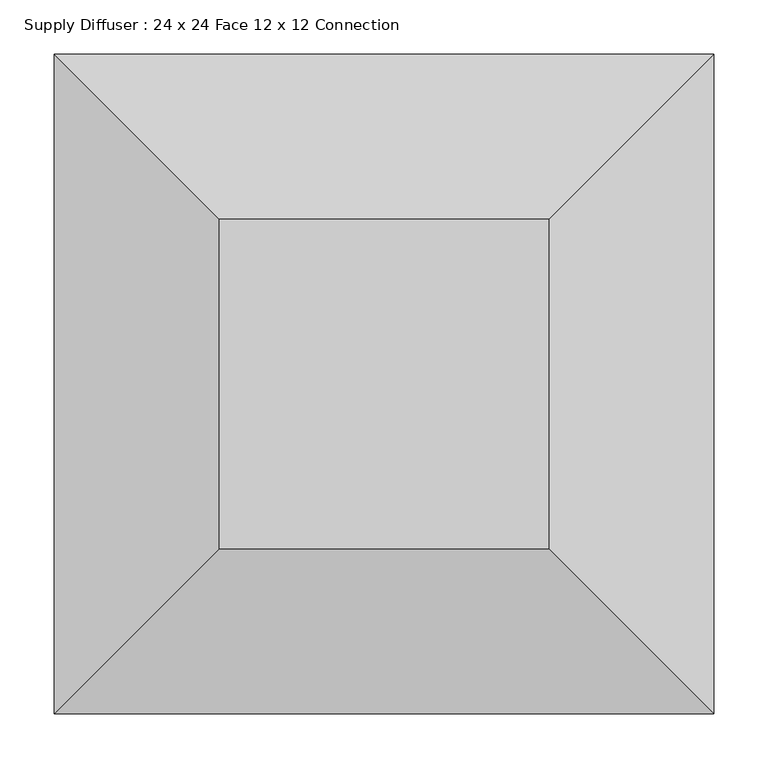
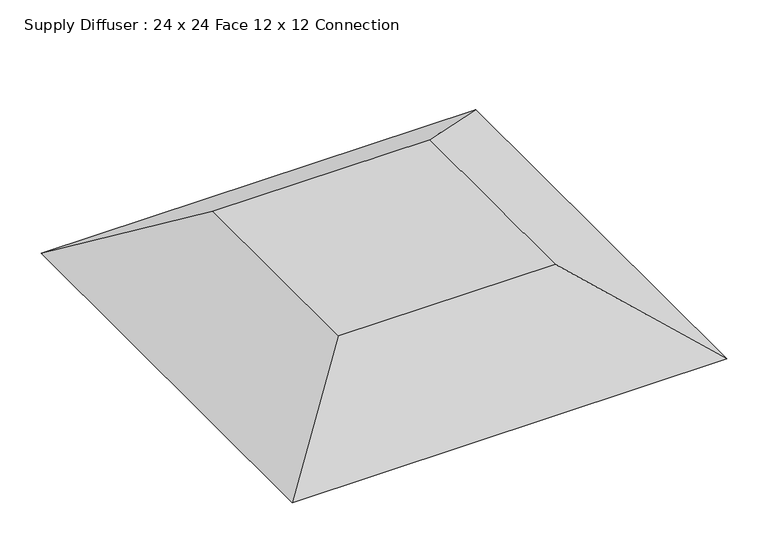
"""IFC4 building model written with IfcOpenShell, lengths in millimetres: air terminal geometry, Supply Diffuser : 24 x 24 Face 12 x 12 Connection."""

from ifc_helpers import new_model, si_unit, origin, place, context, project, spatial, faceted_brep, source, transform, mapped, element, save


def supply_diffuser_24_x_24_face_12_x_12_connection_82c57d1e(model_context):
    return source(origin(), model_context, "Body", "Brep", [
        faceted_brep([(152.4, 152.4, 101.6), (-152.4, 152.4, 101.6), (-152.4, -152.4, 101.6), (152.4, -152.4, 101.6), (305.3846154, 305.3846154, 0.0), (305.3846154, -305.3846154, 0.0), (-305.3846154, -305.3846154, 0.0), (-305.3846154, 305.3846154, 0.0)], [[[0, 1, 2, 3]], [[4, 5, 6, 7]], [[4, 7, 1, 0]], [[7, 6, 2, 1]], [[6, 5, 3, 2]], [[5, 4, 0, 3]]]),
    ])


if __name__ == "__main__":
    model = new_model("IFC4")
    model_context = context("Model", 3, world=origin())
    ifc_project = project(units=[si_unit("LENGTHUNIT", "METRE", prefix="MILLI")], contexts=[model_context])
    site = spatial("IfcSite", under=ifc_project)
    building = spatial("IfcBuilding", under=site)
    placement = place(None, origin())
    supply_diffuser_24_x_24_face_12_x_12_connection_shape = supply_diffuser_24_x_24_face_12_x_12_connection_82c57d1e(model_context)
    element("IfcAirTerminal", 1, ObjectType="Supply Diffuser : 24 x 24 Face 12 x 12 Connection", at=placement, inside=building, context=model_context, shape_type="MappedRepresentation", body=[
        mapped(supply_diffuser_24_x_24_face_12_x_12_connection_shape, transform((0.0, 0.0, 0.0), x_axis=(1.0, 0.0, 0.0), y_axis=(0.0, 1.0, 0.0), z_axis=(0.0, 0.0, 1.0))),
    ])
    save(model, "model.ifc")
